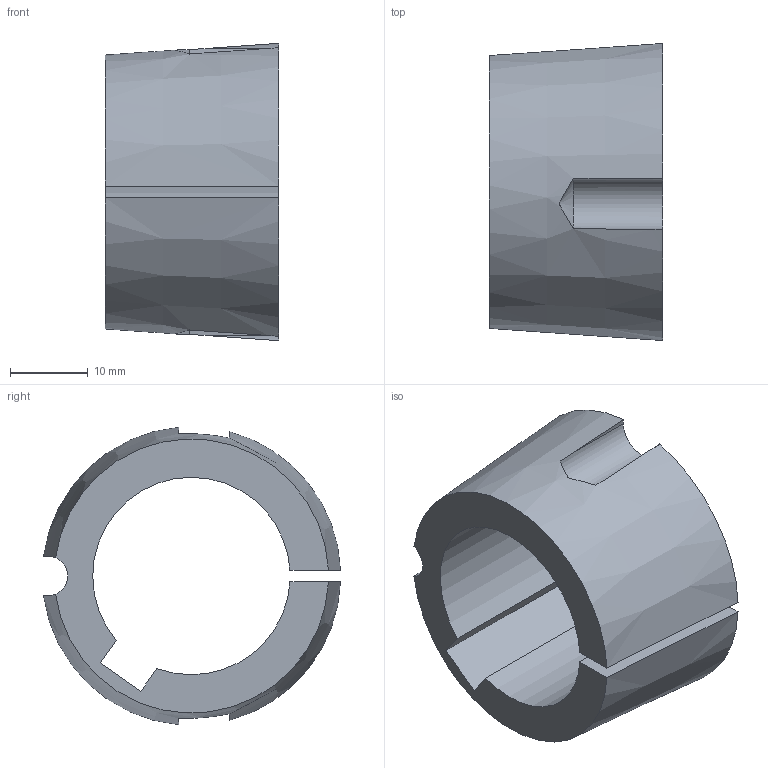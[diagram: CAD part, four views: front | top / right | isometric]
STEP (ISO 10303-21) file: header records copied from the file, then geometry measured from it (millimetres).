
FILE_DESCRIPTION( ( '' ), '1' );
FILE_NAME( 'C:/Users/StangenbergN/Desktop/06.02.2019_steps/6225022540.stp', '2019-02-06T19:54:52', ( '' ), ( '' ), ' ', ' ', ' ' );
FILE_SCHEMA( ( 'CONFIG_CONTROL_DESIGN' ) );
Length unit declared in the file: millimetre
Products named in the file (1): 1
Bounding box: 22.3 x 38.22 x 38.26 mm (x, y, z)
Volume: 11170.5 mm3; surface area: 5879.5 mm2
Topology: 1 solids, 1 shells, 22 faces, 60 edges, 40 vertices
Faces by surface type: cylinder 11, plane 7, cone 4
Entity records: 834 total; most frequent: CARTESIAN_POINT 235, ORIENTED_EDGE 120, DIRECTION 116, EDGE_CURVE 60, AXIS2_PLACEMENT_3D 47, VERTEX_POINT 40, CIRCLE 24, ADVANCED_FACE 22
